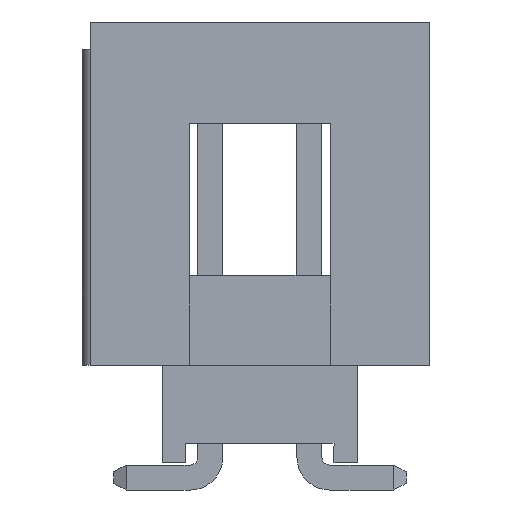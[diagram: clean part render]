
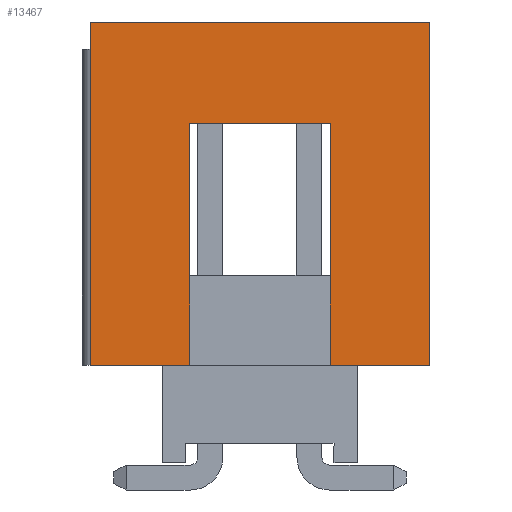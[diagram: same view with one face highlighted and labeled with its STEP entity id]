
A CAD part, left-side view. The second image highlights one B-rep face of the part: STEP entity #13467.
In plain terms, the highlighted planar face has unit normal (-1, 0, 0).
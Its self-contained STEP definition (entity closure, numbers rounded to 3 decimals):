
#915 = LINE ( 'NONE', #15342, #6314 ) ;
#932 = LINE ( 'NONE', #15611, #46699 ) ;
#1844 = DIRECTION ( 'NONE',  ( 0., 0., -1. ) ) ;
#2286 = VECTOR ( 'NONE', #1844, 1000. ) ;
#4141 = CARTESIAN_POINT ( 'NONE',  ( -5.765, 9.341, -6.15 ) ) ;
#4664 = DIRECTION ( 'NONE',  ( 0., 1., 0. ) ) ;
#4682 = ORIENTED_EDGE ( 'NONE', *, *, #27123, .F. ) ;
#4796 = EDGE_CURVE ( 'NONE', #15022, #6275, #10803, .T. ) ;
#5637 = VERTEX_POINT ( 'NONE', #40557 ) ;
#6275 = VERTEX_POINT ( 'NONE', #4141 ) ;
#6314 = VECTOR ( 'NONE', #38000, 1000. ) ;
#6884 = EDGE_CURVE ( 'NONE', #45341, #12778, #14082, .T. ) ;
#7566 = VECTOR ( 'NONE', #30251, 1000. ) ;
#7890 = CARTESIAN_POINT ( 'NONE',  ( -5.765, 9.341, 2.65 ) ) ;
#7901 = LINE ( 'NONE', #15849, #26947 ) ;
#8058 = CARTESIAN_POINT ( 'NONE',  ( -5.765, 0.641, -6.15 ) ) ;
#9035 = ORIENTED_EDGE ( 'NONE', *, *, #17408, .T. ) ;
#9583 = EDGE_LOOP ( 'NONE', ( #29183, #24284, #31564, #41838, #4682, #21896, #9035, #22530 ) ) ;
#9689 = LINE ( 'NONE', #14157, #44915 ) ;
#10803 = LINE ( 'NONE', #14040, #47401 ) ;
#10941 = VERTEX_POINT ( 'NONE', #39984 ) ;
#12778 = VERTEX_POINT ( 'NONE', #8058 ) ;
#13294 = VECTOR ( 'NONE', #28230, 1000. ) ;
#13467 = ADVANCED_FACE ( 'NONE', ( #28394 ), #17177, .F. ) ;
#14040 = CARTESIAN_POINT ( 'NONE',  ( -5.765, 9.341, 2.85 ) ) ;
#14082 = LINE ( 'NONE', #25774, #7566 ) ;
#14157 = CARTESIAN_POINT ( 'NONE',  ( -5.765, 3.191, 0.05 ) ) ;
#15022 = VERTEX_POINT ( 'NONE', #7890 ) ;
#15342 = CARTESIAN_POINT ( 'NONE',  ( -5.765, 0.641, 2.85 ) ) ;
#15611 = CARTESIAN_POINT ( 'NONE',  ( -5.765, 6.791, 0.05 ) ) ;
#15849 = CARTESIAN_POINT ( 'NONE',  ( -5.765, 9.341, -6.15 ) ) ;
#16843 = EDGE_CURVE ( 'NONE', #10941, #5637, #24479, .T. ) ;
#17177 = PLANE ( 'NONE',  #28049 ) ;
#17408 = EDGE_CURVE ( 'NONE', #6275, #5637, #7901, .T. ) ;
#17430 = DIRECTION ( 'NONE',  ( 0., 1., 0. ) ) ;
#18804 = VERTEX_POINT ( 'NONE', #35965 ) ;
#21896 = ORIENTED_EDGE ( 'NONE', *, *, #4796, .T. ) ;
#22530 = ORIENTED_EDGE ( 'NONE', *, *, #16843, .F. ) ;
#24284 = ORIENTED_EDGE ( 'NONE', *, *, #25557, .T. ) ;
#24479 = LINE ( 'NONE', #48105, #2286 ) ;
#24743 = LINE ( 'NONE', #46637, #13294 ) ;
#24755 = CARTESIAN_POINT ( 'NONE',  ( -5.765, 3.191, 0.05 ) ) ;
#25557 = EDGE_CURVE ( 'NONE', #28717, #45341, #9689, .T. ) ;
#25774 = CARTESIAN_POINT ( 'NONE',  ( -5.765, 9.341, -6.15 ) ) ;
#26947 = VECTOR ( 'NONE', #41732, 1000. ) ;
#27123 = EDGE_CURVE ( 'NONE', #15022, #18804, #24743, .T. ) ;
#27397 = CARTESIAN_POINT ( 'NONE',  ( -5.765, 9.341, 2.85 ) ) ;
#28049 = AXIS2_PLACEMENT_3D ( 'NONE', #27397, #42572, #17430 ) ;
#28230 = DIRECTION ( 'NONE',  ( 0., -1., 0. ) ) ;
#28394 = FACE_OUTER_BOUND ( 'NONE', #9583, .T. ) ;
#28717 = VERTEX_POINT ( 'NONE', #24755 ) ;
#29183 = ORIENTED_EDGE ( 'NONE', *, *, #30979, .F. ) ;
#30251 = DIRECTION ( 'NONE',  ( 0., -1., 0. ) ) ;
#30979 = EDGE_CURVE ( 'NONE', #28717, #10941, #932, .T. ) ;
#31262 = CARTESIAN_POINT ( 'NONE',  ( -5.765, 3.191, -6.15 ) ) ;
#31564 = ORIENTED_EDGE ( 'NONE', *, *, #6884, .T. ) ;
#32332 = DIRECTION ( 'NONE',  ( 0., 0., -1. ) ) ;
#35965 = CARTESIAN_POINT ( 'NONE',  ( -5.765, 0.641, 2.65 ) ) ;
#38000 = DIRECTION ( 'NONE',  ( 0., 0., -1. ) ) ;
#39984 = CARTESIAN_POINT ( 'NONE',  ( -5.765, 6.791, 0.05 ) ) ;
#40557 = CARTESIAN_POINT ( 'NONE',  ( -5.765, 6.791, -6.15 ) ) ;
#41732 = DIRECTION ( 'NONE',  ( 0., -1., 0. ) ) ;
#41838 = ORIENTED_EDGE ( 'NONE', *, *, #45311, .F. ) ;
#42572 = DIRECTION ( 'NONE',  ( 1., 0., 0. ) ) ;
#44915 = VECTOR ( 'NONE', #32332, 1000. ) ;
#45311 = EDGE_CURVE ( 'NONE', #18804, #12778, #915, .T. ) ;
#45341 = VERTEX_POINT ( 'NONE', #31262 ) ;
#46637 = CARTESIAN_POINT ( 'NONE',  ( -5.765, 9.341, 2.65 ) ) ;
#46699 = VECTOR ( 'NONE', #4664, 1000. ) ;
#47401 = VECTOR ( 'NONE', #48632, 1000. ) ;
#48105 = CARTESIAN_POINT ( 'NONE',  ( -5.765, 6.791, 0.05 ) ) ;
#48632 = DIRECTION ( 'NONE',  ( 0., 0., -1. ) ) ;
